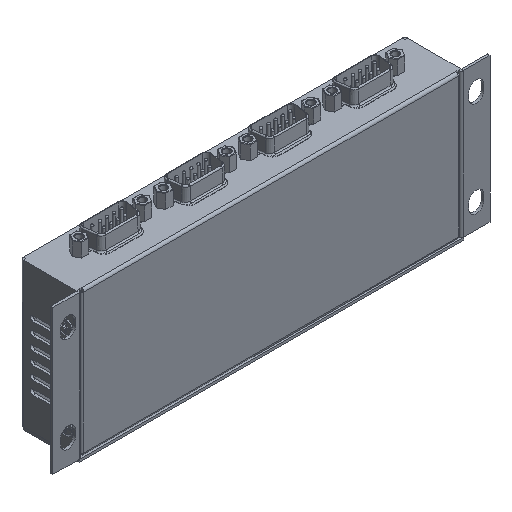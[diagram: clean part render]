
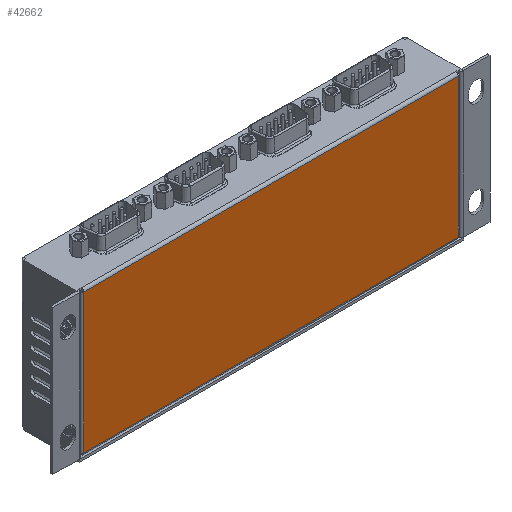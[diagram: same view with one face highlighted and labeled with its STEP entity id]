
A CAD part, isometric view. The second image highlights one B-rep face of the part: STEP entity #42662.
In plain terms, the highlighted planar face has unit normal (0, -1, 0).
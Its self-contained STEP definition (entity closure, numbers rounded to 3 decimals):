
#2071=PLANE('',#45875);
#5569=FACE_OUTER_BOUND('',#8109,.T.);
#8109=EDGE_LOOP('',(#39437,#39438,#39439,#39440));
#12747=LINE('',#79835,#17392);
#12760=LINE('',#79870,#17405);
#12764=LINE('',#79884,#17409);
#12765=LINE('',#79885,#17410);
#17392=VECTOR('',#56543,10.);
#17405=VECTOR('',#56586,10.);
#17409=VECTOR('',#56606,10.);
#17410=VECTOR('',#56607,10.);
#21501=VERTEX_POINT('',#79832);
#21502=VERTEX_POINT('',#79834);
#21509=VERTEX_POINT('',#79869);
#21511=VERTEX_POINT('',#79883);
#27517=EDGE_CURVE('',#21502,#21501,#12747,.T.);
#27535=EDGE_CURVE('',#21509,#21502,#12760,.T.);
#27543=EDGE_CURVE('',#21501,#21511,#12764,.T.);
#27544=EDGE_CURVE('',#21511,#21509,#12765,.T.);
#39437=ORIENTED_EDGE('',*,*,#27517,.T.);
#39438=ORIENTED_EDGE('',*,*,#27543,.T.);
#39439=ORIENTED_EDGE('',*,*,#27544,.T.);
#39440=ORIENTED_EDGE('',*,*,#27535,.T.);
#42662=ADVANCED_FACE('',(#5569),#2071,.T.);
#45875=AXIS2_PLACEMENT_3D('',#79882,#56604,#56605);
#56543=DIRECTION('',(1.,0.,0.));
#56586=DIRECTION('',(0.,0.,-1.));
#56604=DIRECTION('center_axis',(0.,-1.,0.));
#56605=DIRECTION('ref_axis',(1.,0.,0.));
#56606=DIRECTION('',(0.,0.,1.));
#56607=DIRECTION('',(-1.,0.,0.));
#79832=CARTESIAN_POINT('',(73.69,-5.,-54.695));
#79834=CARTESIAN_POINT('',(-74.29,-5.,-54.695));
#79835=CARTESIAN_POINT('',(4.195,-5.,-54.695));
#79869=CARTESIAN_POINT('',(-74.29,-5.,0.415));
#79870=CARTESIAN_POINT('',(-74.29,-5.,-37.493));
#79882=CARTESIAN_POINT('Origin',(-65.3,-5.,-19.28));
#79883=CARTESIAN_POINT('',(73.69,-5.,0.415));
#79884=CARTESIAN_POINT('',(73.69,-5.,-9.433));
#79885=CARTESIAN_POINT('',(-70.3,-5.,0.415));
